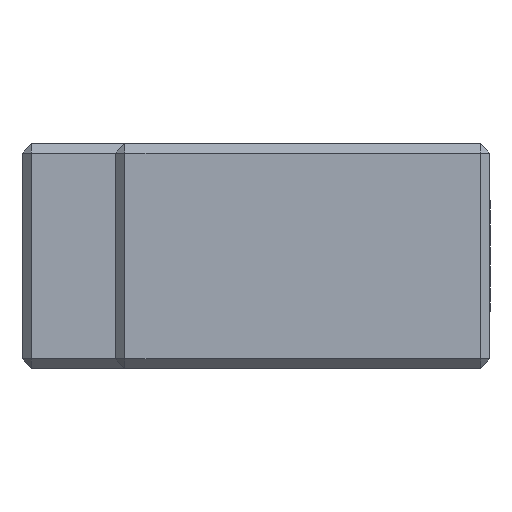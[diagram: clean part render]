
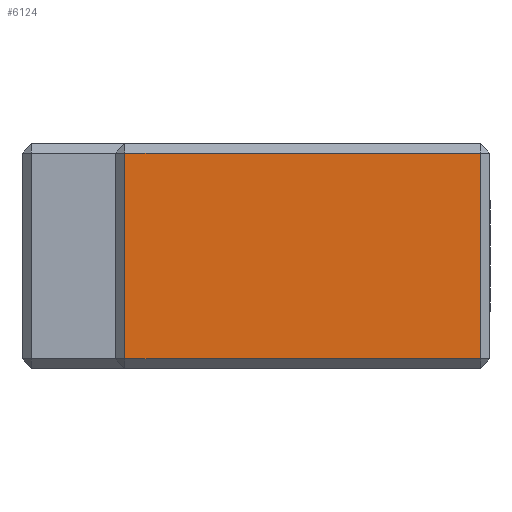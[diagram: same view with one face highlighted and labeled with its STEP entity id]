
A CAD part, left-side view. The second image highlights one B-rep face of the part: STEP entity #6124.
In plain terms, the highlighted planar face has unit normal (-1, 0, 0).
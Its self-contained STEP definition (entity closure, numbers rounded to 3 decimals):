
#438 = LINE ( 'NONE', #3491, #4136 ) ;
#516 = VERTEX_POINT ( 'NONE', #3842 ) ;
#539 = LINE ( 'NONE', #4393, #1337 ) ;
#627 = VECTOR ( 'NONE', #2313, 1000. ) ;
#1337 = VECTOR ( 'NONE', #4420, 1000. ) ;
#1870 = DIRECTION ( 'NONE',  ( -1., 0., 0. ) ) ;
#1919 = AXIS2_PLACEMENT_3D ( 'NONE', #4075, #1870, #4276 ) ;
#2313 = DIRECTION ( 'NONE',  ( 0., 0., -1. ) ) ;
#2329 = PLANE ( 'NONE',  #1919 ) ;
#2352 = CARTESIAN_POINT ( 'NONE',  ( -21., 19.5, -0.5 ) ) ;
#2801 = VERTEX_POINT ( 'NONE', #4062 ) ;
#2919 = CARTESIAN_POINT ( 'NONE',  ( -21., 0.5, -12. ) ) ;
#3151 = FACE_OUTER_BOUND ( 'NONE', #5788, .T. ) ;
#3234 = ORIENTED_EDGE ( 'NONE', *, *, #3729, .T. ) ;
#3301 = DIRECTION ( 'NONE',  ( 0., 0., 1. ) ) ;
#3491 = CARTESIAN_POINT ( 'NONE',  ( -21., 25., -0.5 ) ) ;
#3729 = EDGE_CURVE ( 'NONE', #2801, #516, #539, .T. ) ;
#3842 = CARTESIAN_POINT ( 'NONE',  ( -21., 0.5, -11.5 ) ) ;
#3895 = LINE ( 'NONE', #2919, #4283 ) ;
#3899 = DIRECTION ( 'NONE',  ( 0., 1., 0. ) ) ;
#4062 = CARTESIAN_POINT ( 'NONE',  ( -21., 19.5, -11.5 ) ) ;
#4075 = CARTESIAN_POINT ( 'NONE',  ( -21., 25., -12. ) ) ;
#4128 = ORIENTED_EDGE ( 'NONE', *, *, #6346, .T. ) ;
#4136 = VECTOR ( 'NONE', #3899, 1000. ) ;
#4212 = CARTESIAN_POINT ( 'NONE',  ( -21., 19.5, -12. ) ) ;
#4276 = DIRECTION ( 'NONE',  ( 0., -1., 0. ) ) ;
#4283 = VECTOR ( 'NONE', #3301, 1000. ) ;
#4393 = CARTESIAN_POINT ( 'NONE',  ( -21., 0., -11.5 ) ) ;
#4420 = DIRECTION ( 'NONE',  ( 0., -1., 0. ) ) ;
#4493 = CARTESIAN_POINT ( 'NONE',  ( -21., 0.5, -0.5 ) ) ;
#4593 = EDGE_CURVE ( 'NONE', #6006, #5163, #438, .T. ) ;
#5163 = VERTEX_POINT ( 'NONE', #2352 ) ;
#5711 = EDGE_CURVE ( 'NONE', #516, #6006, #3895, .T. ) ;
#5767 = ORIENTED_EDGE ( 'NONE', *, *, #5711, .T. ) ;
#5788 = EDGE_LOOP ( 'NONE', ( #6057, #4128, #3234, #5767 ) ) ;
#5869 = LINE ( 'NONE', #4212, #627 ) ;
#6006 = VERTEX_POINT ( 'NONE', #4493 ) ;
#6057 = ORIENTED_EDGE ( 'NONE', *, *, #4593, .T. ) ;
#6124 = ADVANCED_FACE ( 'NONE', ( #3151 ), #2329, .T. ) ;
#6346 = EDGE_CURVE ( 'NONE', #5163, #2801, #5869, .T. ) ;
